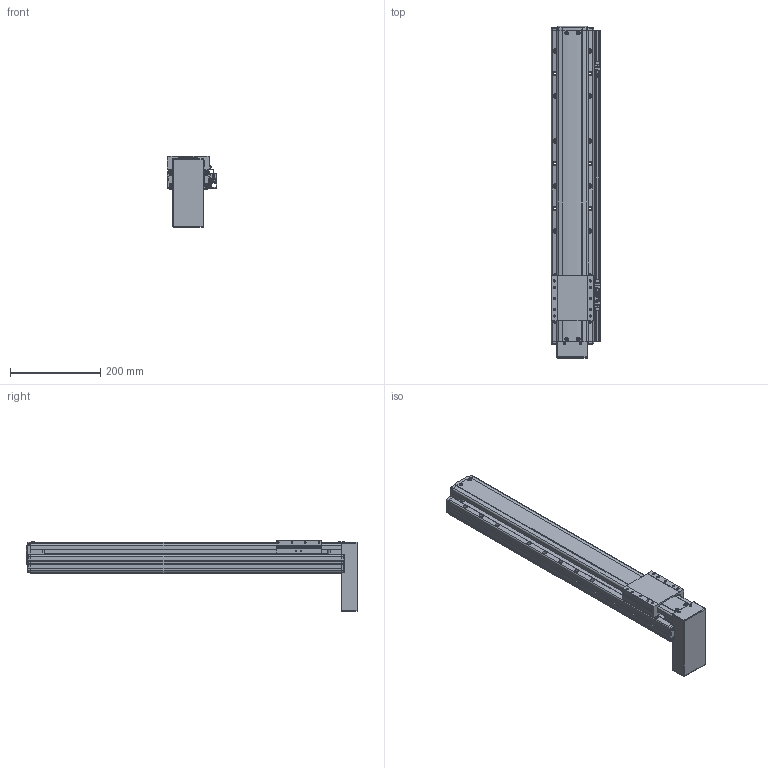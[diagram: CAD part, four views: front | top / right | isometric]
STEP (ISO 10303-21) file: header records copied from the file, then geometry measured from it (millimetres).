
FILE_DESCRIPTION(('STEP AP214'),'1');
FILE_NAME('Z:/Web/3D/PSA95/STP/PSA95-500 (3D)/PSA95ㅁㅁ-500PB+3SR.stp','2014-07-03T00:32:42',(' '),(' '),'Spatial InterOp 3D',' ',' ');
FILE_SCHEMA(('automotive_design'));
Length unit declared in the file: millimetre
Products named in the file (47): BASE; RRCV; 스크루 : Round - M4.0 x 10.0; 너트 : Square - M10.0 x 220.7419; RR1500; FRCV-090; 스크루 : Round - M4.0 x 6.0; SLBL-PA90; MTPL COVER; 스크루 : Round - M3.0 x 6.0; 1; 2; EE-SX674; SBK-SX674-352; M3.0 x 6.0; SRL-16x17-380L; SGD-PA95; 스크루 : Round - M3.0 x 8.0
Bounding box: 111 x 737.5 x 159.57 mm (x, y, z)
Volume: 4246061.7 mm3; surface area: 525010.8 mm2
Topology: 47 solids, 47 shells, 2550 faces, 6761 edges, 4339 vertices
Faces by surface type: plane 1487, cylinder 717, cone 238, sphere 70, bspline 24, torus 14
Entity records: 102010 total; most frequent: CARTESIAN_POINT 16756, DIRECTION 13544, ORIENTED_EDGE 13250, EDGE_CURVE 6625, AXIS2_PLACEMENT_3D 4521, LINE 4502, VECTOR 4502, VERTEX_POINT 4339
